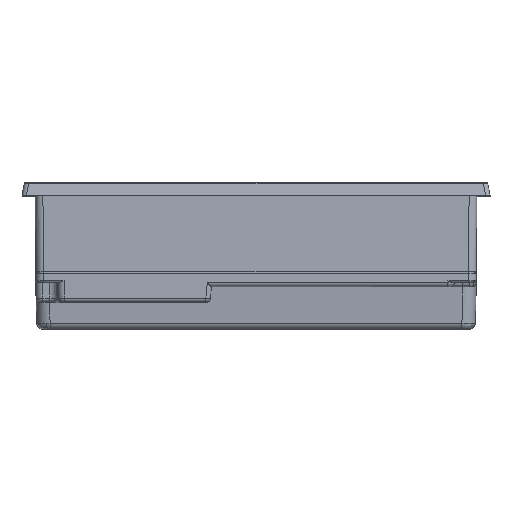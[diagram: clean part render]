
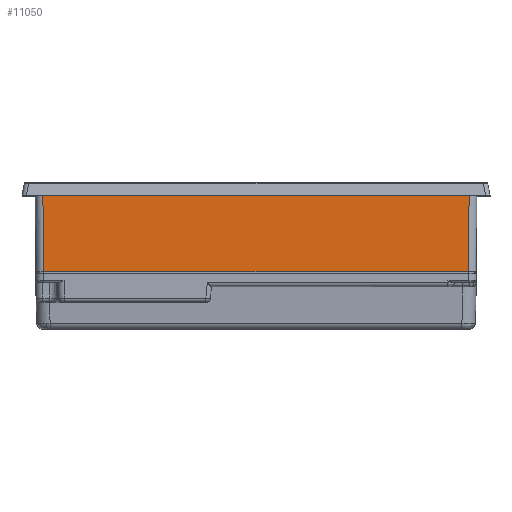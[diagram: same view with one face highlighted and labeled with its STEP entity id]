
A CAD part, top view. The second image highlights one B-rep face of the part: STEP entity #11050.
In plain terms, the highlighted planar face has unit normal (0, -0.009, 1).
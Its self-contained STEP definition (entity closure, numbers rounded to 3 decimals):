
#14 = CARTESIAN_POINT ( 'NONE',  ( 99., -34., 68.681 ) ) ;
#500 = CARTESIAN_POINT ( 'NONE',  ( -95.182, -34., 68.681 ) ) ;
#825 = CARTESIAN_POINT ( 'NONE',  ( 95.182, -34., 68.681 ) ) ;
#1937 = DIRECTION ( 'NONE',  ( 1., 0., 0. ) ) ;
#2123 = VERTEX_POINT ( 'NONE', #13853 ) ;
#2735 = LINE ( 'NONE', #24284, #14560 ) ;
#3432 = VERTEX_POINT ( 'NONE', #18701 ) ;
#4266 = VERTEX_POINT ( 'NONE', #500 ) ;
#6955 = DIRECTION ( 'NONE',  ( 0.009, -1., -0.009 ) ) ;
#7257 = ORIENTED_EDGE ( 'NONE', *, *, #21448, .T. ) ;
#7429 = VECTOR ( 'NONE', #6955, 1000. ) ;
#7535 = ORIENTED_EDGE ( 'NONE', *, *, #13644, .T. ) ;
#9315 = ORIENTED_EDGE ( 'NONE', *, *, #27656, .T. ) ;
#10694 = DIRECTION ( 'NONE',  ( 0., -0.009, 1. ) ) ;
#10704 = DIRECTION ( 'NONE',  ( -1., 0., 0. ) ) ;
#11050 = ADVANCED_FACE ( 'NONE', ( #27591 ), #25357, .T. ) ;
#11177 = LINE ( 'NONE', #18366, #21248 ) ;
#13644 = EDGE_CURVE ( 'NONE', #3432, #2123, #11177, .T. ) ;
#13853 = CARTESIAN_POINT ( 'NONE',  ( -95.504, 3., 69.004 ) ) ;
#14560 = VECTOR ( 'NONE', #19509, 1000. ) ;
#15582 = AXIS2_PLACEMENT_3D ( 'NONE', #17720, #10694, #17570 ) ;
#16473 = LINE ( 'NONE', #14, #24719 ) ;
#17570 = DIRECTION ( 'NONE',  ( 0., -1., -0.009 ) ) ;
#17720 = CARTESIAN_POINT ( 'NONE',  ( 99., 2.5, 69. ) ) ;
#18366 = CARTESIAN_POINT ( 'NONE',  ( -104.85, 3., 69.004 ) ) ;
#18701 = CARTESIAN_POINT ( 'NONE',  ( 95.504, 3., 69.004 ) ) ;
#19509 = DIRECTION ( 'NONE',  ( 0.009, 1., 0.009 ) ) ;
#19881 = EDGE_LOOP ( 'NONE', ( #9315, #30383, #7535, #7257 ) ) ;
#21248 = VECTOR ( 'NONE', #10704, 1000. ) ;
#21448 = EDGE_CURVE ( 'NONE', #2123, #4266, #31032, .T. ) ;
#23199 = VERTEX_POINT ( 'NONE', #825 ) ;
#24284 = CARTESIAN_POINT ( 'NONE',  ( 95.5, 2.531, 69. ) ) ;
#24719 = VECTOR ( 'NONE', #1937, 1000. ) ;
#25357 = PLANE ( 'NONE',  #15582 ) ;
#27591 = FACE_OUTER_BOUND ( 'NONE', #19881, .T. ) ;
#27656 = EDGE_CURVE ( 'NONE', #4266, #23199, #16473, .T. ) ;
#28326 = CARTESIAN_POINT ( 'NONE',  ( -95.485, 0.803, 68.985 ) ) ;
#30383 = ORIENTED_EDGE ( 'NONE', *, *, #31009, .T. ) ;
#31009 = EDGE_CURVE ( 'NONE', #23199, #3432, #2735, .T. ) ;
#31032 = LINE ( 'NONE', #28326, #7429 ) ;
